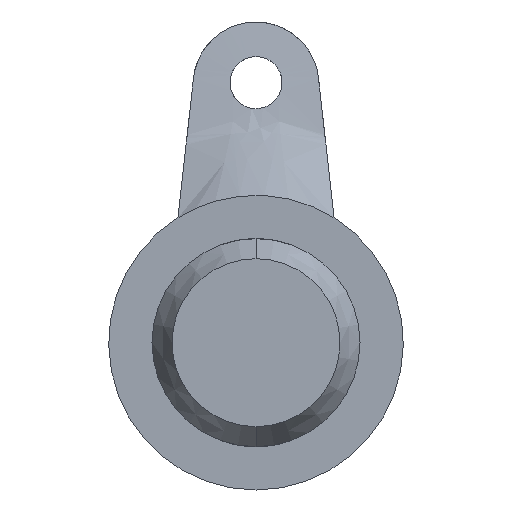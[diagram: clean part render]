
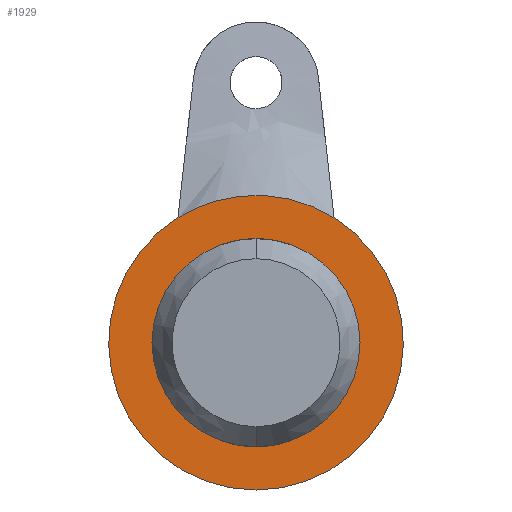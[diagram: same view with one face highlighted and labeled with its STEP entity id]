
A CAD part, front view. The second image highlights one B-rep face of the part: STEP entity #1929.
In plain terms, the highlighted planar face has unit normal (0, -1, 0).
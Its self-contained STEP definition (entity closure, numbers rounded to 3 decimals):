
#35 = FACE_BOUND ( 'NONE', #1805, .T. ) ;
#44 = ORIENTED_EDGE ( 'NONE', *, *, #1227, .T. ) ;
#128 = CARTESIAN_POINT ( 'NONE',  ( 0., 0., 0. ) ) ;
#213 = CARTESIAN_POINT ( 'NONE',  ( 0., 0., 0. ) ) ;
#220 = CARTESIAN_POINT ( 'NONE',  ( 0., 0., 0. ) ) ;
#234 = ORIENTED_EDGE ( 'NONE', *, *, #362, .T. ) ;
#240 = CARTESIAN_POINT ( 'NONE',  ( 2.72, 0., 8.056 ) ) ;
#241 = B_SPLINE_CURVE_WITH_KNOTS ( 'NONE', 3,
 ( #1671, #407, #1935, #535, #240, #1505, #1194, #1027, #253, #1944, #1164, #1046, #1632 ),
 .UNSPECIFIED., .F., .F.,
 ( 4, 1, 2, 2, 2, 2, 4 ),
 ( 0., 0.125, 0.187, 0.25, 0.5, 0.75, 1. ),
 .UNSPECIFIED. ) ;
#253 = CARTESIAN_POINT ( 'NONE',  ( -0.791, 0., 8.5 ) ) ;
#298 = DIRECTION ( 'NONE',  ( 0., 0., -1. ) ) ;
#328 = CARTESIAN_POINT ( 'NONE',  ( 4.5, 0., 7.211 ) ) ;
#362 = EDGE_CURVE ( 'NONE', #746, #600, #1282, .T. ) ;
#407 = CARTESIAN_POINT ( 'NONE',  ( 4.163, 0., 7.422 ) ) ;
#488 = EDGE_CURVE ( 'NONE', #1377, #1015, #864, .T. ) ;
#535 = CARTESIAN_POINT ( 'NONE',  ( 3.091, 0., 7.921 ) ) ;
#577 = AXIS2_PLACEMENT_3D ( 'NONE', #220, #1446, #1881 ) ;
#600 = VERTEX_POINT ( 'NONE', #1092 ) ;
#634 = ORIENTED_EDGE ( 'NONE', *, *, #1304, .T. ) ;
#662 = FACE_OUTER_BOUND ( 'NONE', #738, .T. ) ;
#732 = AXIS2_PLACEMENT_3D ( 'NONE', #128, #1398, #298 ) ;
#738 = EDGE_LOOP ( 'NONE', ( #1591, #44, #634 ) ) ;
#740 = CARTESIAN_POINT ( 'NONE',  ( -4.5, 0., 7.211 ) ) ;
#744 = ORIENTED_EDGE ( 'NONE', *, *, #2005, .T. ) ;
#746 = VERTEX_POINT ( 'NONE', #897 ) ;
#801 = CARTESIAN_POINT ( 'NONE',  ( 0., 0., -2.65 ) ) ;
#864 = CIRCLE ( 'NONE', #732, 8.5 ) ;
#897 = CARTESIAN_POINT ( 'NONE',  ( 0., 0., 6. ) ) ;
#975 = DIRECTION ( 'NONE',  ( 0., -1., 0. ) ) ;
#1015 = VERTEX_POINT ( 'NONE', #1058 ) ;
#1027 = CARTESIAN_POINT ( 'NONE',  ( 0.791, 0., 8.5 ) ) ;
#1046 = CARTESIAN_POINT ( 'NONE',  ( -3.828, 0., 7.63 ) ) ;
#1058 = CARTESIAN_POINT ( 'NONE',  ( 0., 0., -8.5 ) ) ;
#1092 = CARTESIAN_POINT ( 'NONE',  ( 0., 0., -6. ) ) ;
#1164 = CARTESIAN_POINT ( 'NONE',  ( -3.101, 0., 7.954 ) ) ;
#1194 = CARTESIAN_POINT ( 'NONE',  ( 1.58, 0., 8.389 ) ) ;
#1227 = EDGE_CURVE ( 'NONE', #1015, #1603, #1487, .T. ) ;
#1282 = CIRCLE ( 'NONE', #1862, 6. ) ;
#1304 = EDGE_CURVE ( 'NONE', #1603, #1377, #241, .T. ) ;
#1377 = VERTEX_POINT ( 'NONE', #740 ) ;
#1398 = DIRECTION ( 'NONE',  ( 0., -1., 0. ) ) ;
#1446 = DIRECTION ( 'NONE',  ( 0., 1., 0. ) ) ;
#1459 = AXIS2_PLACEMENT_3D ( 'NONE', #801, #975, #1743 ) ;
#1487 = CIRCLE ( 'NONE', #1910, 8.5 ) ;
#1505 = CARTESIAN_POINT ( 'NONE',  ( 2.531, 0., 8.117 ) ) ;
#1591 = ORIENTED_EDGE ( 'NONE', *, *, #488, .T. ) ;
#1603 = VERTEX_POINT ( 'NONE', #328 ) ;
#1620 = PLANE ( 'NONE',  #1459 ) ;
#1631 = DIRECTION ( 'NONE',  ( 0., 1., 0. ) ) ;
#1632 = CARTESIAN_POINT ( 'NONE',  ( -4.5, 0., 7.211 ) ) ;
#1671 = CARTESIAN_POINT ( 'NONE',  ( 4.5, 0., 7.211 ) ) ;
#1743 = DIRECTION ( 'NONE',  ( 0., 0., -1. ) ) ;
#1746 = DIRECTION ( 'NONE',  ( 0., 0., -1. ) ) ;
#1756 = CIRCLE ( 'NONE', #577, 6. ) ;
#1805 = EDGE_LOOP ( 'NONE', ( #234, #744 ) ) ;
#1862 = AXIS2_PLACEMENT_3D ( 'NONE', #1917, #1631, #1961 ) ;
#1881 = DIRECTION ( 'NONE',  ( 0., 0., 1. ) ) ;
#1910 = AXIS2_PLACEMENT_3D ( 'NONE', #213, #1927, #1746 ) ;
#1917 = CARTESIAN_POINT ( 'NONE',  ( 0., 0., 0. ) ) ;
#1927 = DIRECTION ( 'NONE',  ( 0., -1., 0. ) ) ;
#1929 = ADVANCED_FACE ( 'NONE', ( #35, #662 ), #1620, .T. ) ;
#1935 = CARTESIAN_POINT ( 'NONE',  ( 3.64, 0., 7.7 ) ) ;
#1944 = CARTESIAN_POINT ( 'NONE',  ( -1.58, 0., 8.389 ) ) ;
#1961 = DIRECTION ( 'NONE',  ( 0., 0., 1. ) ) ;
#2005 = EDGE_CURVE ( 'NONE', #600, #746, #1756, .T. ) ;
